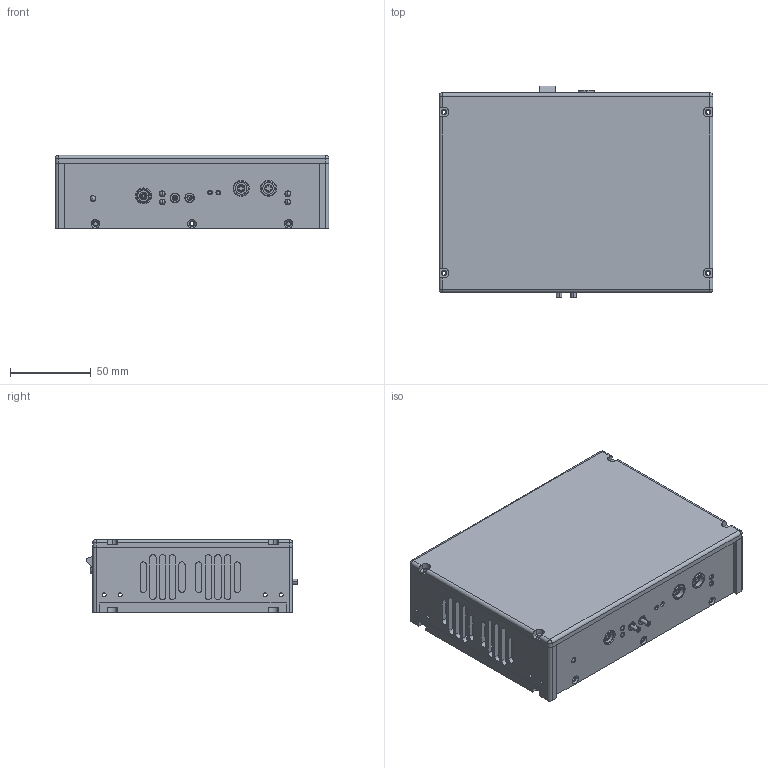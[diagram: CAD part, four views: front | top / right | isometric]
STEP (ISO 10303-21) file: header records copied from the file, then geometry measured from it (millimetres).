
FILE_DESCRIPTION (( 'STEP AP203' ), '1' );
FILE_NAME ('E70.B2S-H.STEP', '2025-07-14T08:18:57', ( 'China' ), ( 'Home' ), 'SwSTEP 2.0', 'SolidWorks 2016', '' );
FILE_SCHEMA (( 'CONFIG_CONTROL_DESIGN' ));
Length unit declared in the file: millimetre
Products named in the file (1): E70.B2S-H
Bounding box: 170 x 131.53 x 45.5 mm (x, y, z)
Surface area: 119980.9 mm2 (no closed solid volume)
Topology: 0 solids, 44 shells, 492 faces, 1937 edges, 1453 vertices
Faces by surface type: cylinder 291, plane 165, cone 20, sphere 15, bspline 1
Entity records: 21084 total; most frequent: DIRECTION 3965, CARTESIAN_POINT 3889, ORIENTED_EDGE 2855, EDGE_CURVE 1910, AXIS2_PLACEMENT_3D 1569, VERTEX_POINT 1441, CIRCLE 1077, LINE 827
